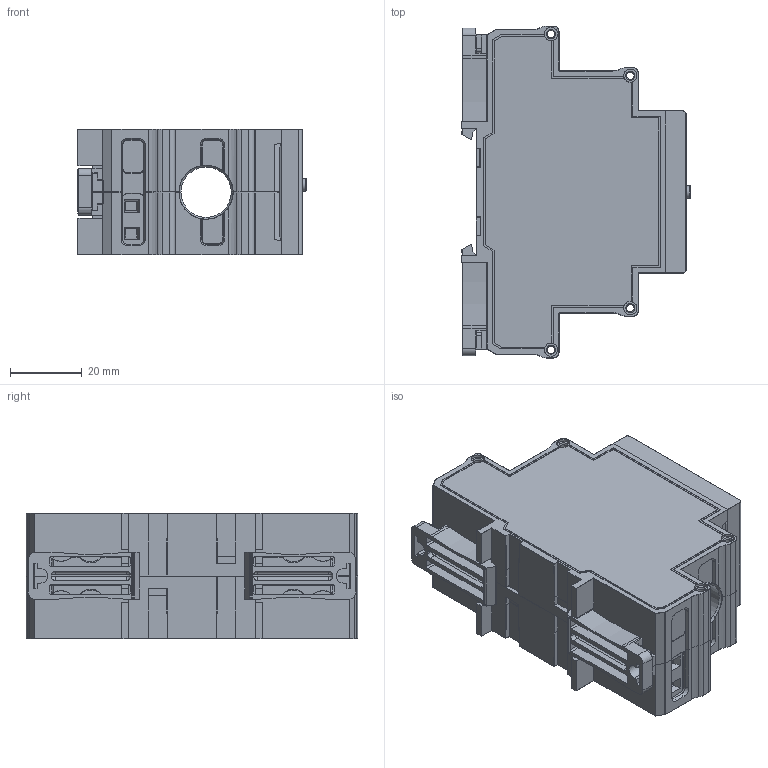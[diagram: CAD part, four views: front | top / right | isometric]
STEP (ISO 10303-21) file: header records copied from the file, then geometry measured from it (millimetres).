
FILE_DESCRIPTION(('STEP AP242'), '1');
FILE_NAME('ﾑ碚濱ﾂﾀﾐ-ﾌ01-083', '', ('UNSPECIFIED'), ('UNSPECIFIED'), 'C3D Converter', 'C3D Toolkit', '');
FILE_SCHEMA(('AP242_MANAGED_MODEL_BASED_3D_ENGINEERING_MIM_LF { 1 0 10303 442 1 1 4 }'));
Length unit declared in the file: millimetre
Products named in the file (19): Case_UC1-2sR-2024_SimpleModel_17mm; Case_UC1-2sR-2025_Face_FR.FP.0000077; Case13-18-23mm_2step_Lock_v01a_Build20140909_1552; Case_UC1-2sR-2024_Plug_35mm; UC1-2sR-2024_Plug_13mm; Case_UC1-2sR-2024_Plug_35mm_add
Assembly tree (20 placements, depth 3):
  (unnamed)
    Case_UC1-2sR-2024_SimpleModel_17mm
    Case_UC1-2sR-2024_SimpleModel_17mm
    Case_UC1-2sR-2025_Face_FR.FP.0000077
    Case13-18-23mm_2step_Lock_v01a_Build20140909_1552  x2
    Case_UC1-2sR-2024_Plug_35mm
    Case_UC1-2sR-2024_Plug_35mm
    Case_UC1-2sR-2024_Plug_35mm
    (unnamed)
      UC1-2sR-2024_Plug_13mm
      Case_UC1-2sR-2024_Plug_35mm_add
    (unnamed)
    (unnamed)
    (unnamed)
    (unnamed)  x2
    (unnamed)
    (unnamed)
    (unnamed)
    (unnamed)
Bounding box: 63.73 x 92.4 x 35 mm (x, y, z)
Volume: 33778 mm3; surface area: 57924.4 mm2
Topology: 34 solids, 34 shells, 4346 faces, 11935 edges, 7627 vertices
Faces by surface type: plane 2997, cylinder 718, extrusion 212, torus 211, cone 76, bspline 74, sphere 58
Full cylindrical faces by diameter (mm): 2.1 x8, 3.5 x1, 3.7 x8, 3.9 x2, 4 x2, 14 x1, 15 x1
Entity records: 173582 total; most frequent: CARTESIAN_POINT 32145, ORIENTED_EDGE 23186, DIRECTION 20460, EDGE_CURVE 11593, VECTOR 9446, LINE 9234, VERTEX_POINT 7469, AXIS2_PLACEMENT_3D 5507
